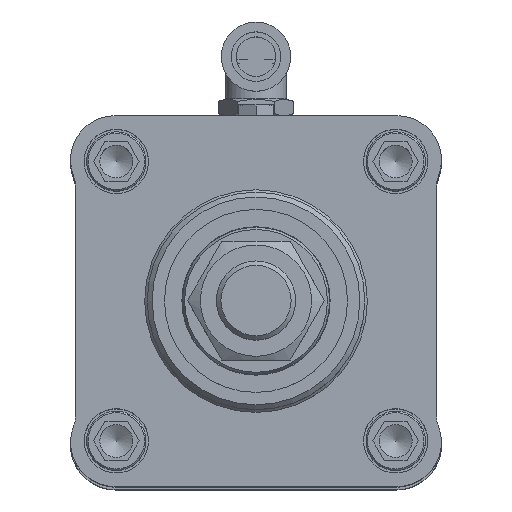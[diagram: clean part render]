
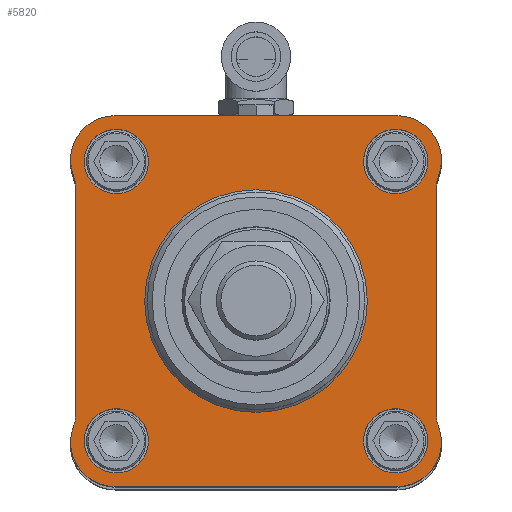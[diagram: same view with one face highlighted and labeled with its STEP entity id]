
A CAD part, top view. The second image highlights one B-rep face of the part: STEP entity #5820.
In plain terms, the highlighted planar face has unit normal (0, 0, 1) as drawn and (-1, 0, 0) by its records, which use the part's own axes.
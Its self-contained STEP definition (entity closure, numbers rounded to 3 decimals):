
#257=CIRCLE('',#6243,22.5);
#263=CIRCLE('',#6255,9.);
#265=CIRCLE('',#6258,4.5);
#267=CIRCLE('',#6262,4.5);
#269=CIRCLE('',#6265,9.);
#271=CIRCLE('',#6269,9.);
#273=CIRCLE('',#6272,4.5);
#275=CIRCLE('',#6276,4.5);
#277=CIRCLE('',#6279,9.);
#278=CIRCLE('',#6281,6.5);
#279=CIRCLE('',#6282,6.5);
#280=CIRCLE('',#6283,6.5);
#281=CIRCLE('',#6284,6.5);
#1101=ORIENTED_EDGE('',*,*,#1836,.T.);
#1102=ORIENTED_EDGE('',*,*,#1837,.T.);
#1103=ORIENTED_EDGE('',*,*,#1838,.T.);
#1104=ORIENTED_EDGE('',*,*,#1839,.T.);
#1105=ORIENTED_EDGE('',*,*,#1795,.F.);
#1106=ORIENTED_EDGE('',*,*,#1802,.F.);
#1107=ORIENTED_EDGE('',*,*,#1835,.F.);
#1108=ORIENTED_EDGE('',*,*,#1832,.T.);
#1109=ORIENTED_EDGE('',*,*,#1829,.F.);
#1110=ORIENTED_EDGE('',*,*,#1826,.T.);
#1111=ORIENTED_EDGE('',*,*,#1823,.F.);
#1112=ORIENTED_EDGE('',*,*,#1820,.F.);
#1113=ORIENTED_EDGE('',*,*,#1817,.F.);
#1114=ORIENTED_EDGE('',*,*,#1814,.T.);
#1115=ORIENTED_EDGE('',*,*,#1811,.F.);
#1116=ORIENTED_EDGE('',*,*,#1808,.T.);
#1117=ORIENTED_EDGE('',*,*,#1805,.F.);
#1795=EDGE_CURVE('',#2245,#2245,#257,.F.);
#1802=EDGE_CURVE('',#2252,#2253,#2561,.T.);
#1805=EDGE_CURVE('',#2253,#2255,#263,.T.);
#1808=EDGE_CURVE('',#2257,#2255,#265,.T.);
#1811=EDGE_CURVE('',#2257,#2259,#2566,.T.);
#1814=EDGE_CURVE('',#2261,#2259,#267,.T.);
#1817=EDGE_CURVE('',#2261,#2263,#269,.T.);
#1820=EDGE_CURVE('',#2263,#2265,#2571,.T.);
#1823=EDGE_CURVE('',#2265,#2267,#271,.T.);
#1826=EDGE_CURVE('',#2269,#2267,#273,.T.);
#1829=EDGE_CURVE('',#2269,#2271,#2576,.T.);
#1832=EDGE_CURVE('',#2273,#2271,#275,.T.);
#1835=EDGE_CURVE('',#2273,#2252,#277,.T.);
#1836=EDGE_CURVE('',#2274,#2274,#278,.T.);
#1837=EDGE_CURVE('',#2275,#2275,#279,.T.);
#1838=EDGE_CURVE('',#2276,#2276,#280,.T.);
#1839=EDGE_CURVE('',#2277,#2277,#281,.T.);
#2245=VERTEX_POINT('',#8552);
#2252=VERTEX_POINT('',#8570);
#2253=VERTEX_POINT('',#8572);
#2255=VERTEX_POINT('',#8578);
#2257=VERTEX_POINT('',#8584);
#2259=VERTEX_POINT('',#8590);
#2261=VERTEX_POINT('',#8596);
#2263=VERTEX_POINT('',#8602);
#2265=VERTEX_POINT('',#8608);
#2267=VERTEX_POINT('',#8614);
#2269=VERTEX_POINT('',#8620);
#2271=VERTEX_POINT('',#8626);
#2273=VERTEX_POINT('',#8632);
#2274=VERTEX_POINT('',#8639);
#2275=VERTEX_POINT('',#8641);
#2276=VERTEX_POINT('',#8643);
#2277=VERTEX_POINT('',#8645);
#2561=LINE('',#8571,#2817);
#2566=LINE('',#8589,#2822);
#2571=LINE('',#8607,#2827);
#2576=LINE('',#8625,#2832);
#2817=VECTOR('',#7234,1000.);
#2822=VECTOR('',#7253,1000.);
#2827=VECTOR('',#7272,1000.);
#2832=VECTOR('',#7291,1000.);
#3170=EDGE_LOOP('',(#1101));
#3171=EDGE_LOOP('',(#1102));
#3172=EDGE_LOOP('',(#1103));
#3173=EDGE_LOOP('',(#1104));
#3174=EDGE_LOOP('',(#1105));
#3175=EDGE_LOOP('',(#1106,#1107,#1108,#1109,#1110,#1111,#1112,#1113,#1114,
#1115,#1116,#1117));
#3618=FACE_BOUND('',#3170,.T.);
#3619=FACE_BOUND('',#3171,.T.);
#3620=FACE_BOUND('',#3172,.T.);
#3621=FACE_BOUND('',#3173,.T.);
#3622=FACE_BOUND('',#3174,.T.);
#3623=FACE_BOUND('',#3175,.T.);
#3882=PLANE('',#6280);
#5820=ADVANCED_FACE('',(#3618,#3619,#3620,#3621,#3622,#3623),#3882,.F.);
#6243=AXIS2_PLACEMENT_3D('',#8551,#7212,#7213);
#6255=AXIS2_PLACEMENT_3D('',#8577,#7240,#7241);
#6258=AXIS2_PLACEMENT_3D('',#8583,#7247,#7248);
#6262=AXIS2_PLACEMENT_3D('',#8595,#7259,#7260);
#6265=AXIS2_PLACEMENT_3D('',#8601,#7266,#7267);
#6269=AXIS2_PLACEMENT_3D('',#8613,#7278,#7279);
#6272=AXIS2_PLACEMENT_3D('',#8619,#7285,#7286);
#6276=AXIS2_PLACEMENT_3D('',#8631,#7297,#7298);
#6279=AXIS2_PLACEMENT_3D('',#8636,#7304,#7305);
#6280=AXIS2_PLACEMENT_3D('',#8637,#7306,#7307);
#6281=AXIS2_PLACEMENT_3D('',#8638,#7308,#7309);
#6282=AXIS2_PLACEMENT_3D('',#8640,#7310,#7311);
#6283=AXIS2_PLACEMENT_3D('',#8642,#7312,#7313);
#6284=AXIS2_PLACEMENT_3D('',#8644,#7314,#7315);
#7212=DIRECTION('',(1.,0.,0.));
#7213=DIRECTION('',(0.,0.,-1.));
#7234=DIRECTION('',(0.,-1.,0.));
#7240=DIRECTION('',(1.,0.,0.));
#7241=DIRECTION('',(0.,0.,-1.));
#7247=DIRECTION('',(1.,0.,0.));
#7248=DIRECTION('',(0.,0.,-1.));
#7253=DIRECTION('',(0.,0.,-1.));
#7259=DIRECTION('',(1.,0.,0.));
#7260=DIRECTION('',(0.,0.,-1.));
#7266=DIRECTION('',(1.,0.,0.));
#7267=DIRECTION('',(0.,0.,-1.));
#7272=DIRECTION('',(0.,1.,0.));
#7278=DIRECTION('',(1.,0.,0.));
#7279=DIRECTION('',(0.,0.,-1.));
#7285=DIRECTION('',(1.,0.,0.));
#7286=DIRECTION('',(0.,0.,-1.));
#7291=DIRECTION('',(0.,0.,1.));
#7297=DIRECTION('',(1.,0.,0.));
#7298=DIRECTION('',(0.,0.,-1.));
#7304=DIRECTION('',(1.,0.,0.));
#7305=DIRECTION('',(0.,0.,-1.));
#7306=DIRECTION('',(1.,0.,0.));
#7307=DIRECTION('',(0.,0.,-1.));
#7308=DIRECTION('',(1.,0.,0.));
#7309=DIRECTION('',(0.,0.,-1.));
#7310=DIRECTION('',(1.,0.,0.));
#7311=DIRECTION('',(0.,0.,-1.));
#7312=DIRECTION('',(1.,0.,0.));
#7313=DIRECTION('',(0.,0.,-1.));
#7314=DIRECTION('',(1.,0.,0.));
#7315=DIRECTION('',(0.,0.,-1.));
#8551=CARTESIAN_POINT('',(-38.,0.,0.));
#8552=CARTESIAN_POINT('',(-38.,0.,-22.5));
#8570=CARTESIAN_POINT('',(-38.,28.5,37.5));
#8571=CARTESIAN_POINT('',(-38.,28.5,37.5));
#8572=CARTESIAN_POINT('',(-38.,-28.5,37.5));
#8577=CARTESIAN_POINT('',(-38.,-28.5,28.5));
#8578=CARTESIAN_POINT('',(-38.,-36.833,25.101));
#8583=CARTESIAN_POINT('',(-38.,-41.,23.401));
#8584=CARTESIAN_POINT('',(-38.,-36.5,23.401));
#8589=CARTESIAN_POINT('',(-38.,-36.5,23.401));
#8590=CARTESIAN_POINT('',(-38.,-36.5,-23.401));
#8595=CARTESIAN_POINT('',(-38.,-41.,-23.401));
#8596=CARTESIAN_POINT('',(-38.,-36.833,-25.101));
#8601=CARTESIAN_POINT('',(-38.,-28.5,-28.5));
#8602=CARTESIAN_POINT('',(-38.,-28.5,-37.5));
#8607=CARTESIAN_POINT('',(-38.,-28.5,-37.5));
#8608=CARTESIAN_POINT('',(-38.,28.5,-37.5));
#8613=CARTESIAN_POINT('',(-38.,28.5,-28.5));
#8614=CARTESIAN_POINT('',(-38.,36.833,-25.101));
#8619=CARTESIAN_POINT('',(-38.,41.,-23.401));
#8620=CARTESIAN_POINT('',(-38.,36.5,-23.401));
#8625=CARTESIAN_POINT('',(-38.,36.5,-23.401));
#8626=CARTESIAN_POINT('',(-38.,36.5,23.401));
#8631=CARTESIAN_POINT('',(-38.,41.,23.401));
#8632=CARTESIAN_POINT('',(-38.,36.833,25.101));
#8636=CARTESIAN_POINT('',(-38.,28.5,28.5));
#8637=CARTESIAN_POINT('',(-38.,-28.5,28.5));
#8638=CARTESIAN_POINT('',(-38.,-28.25,28.25));
#8639=CARTESIAN_POINT('',(-38.,-28.25,21.75));
#8640=CARTESIAN_POINT('',(-38.,-28.25,-28.25));
#8641=CARTESIAN_POINT('',(-38.,-28.25,-34.75));
#8642=CARTESIAN_POINT('',(-38.,28.25,-28.25));
#8643=CARTESIAN_POINT('',(-38.,28.25,-34.75));
#8644=CARTESIAN_POINT('',(-38.,28.25,28.25));
#8645=CARTESIAN_POINT('',(-38.,28.25,21.75));
